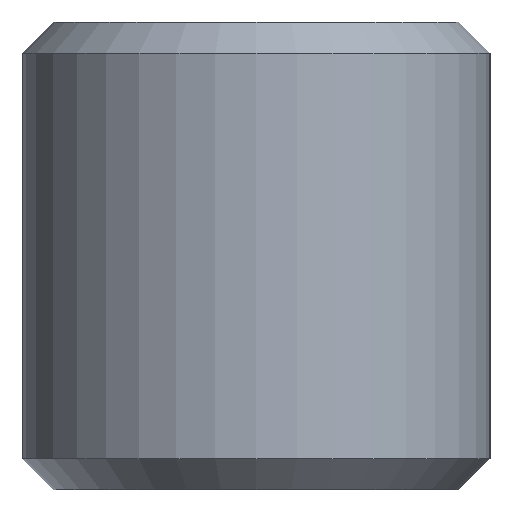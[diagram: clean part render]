
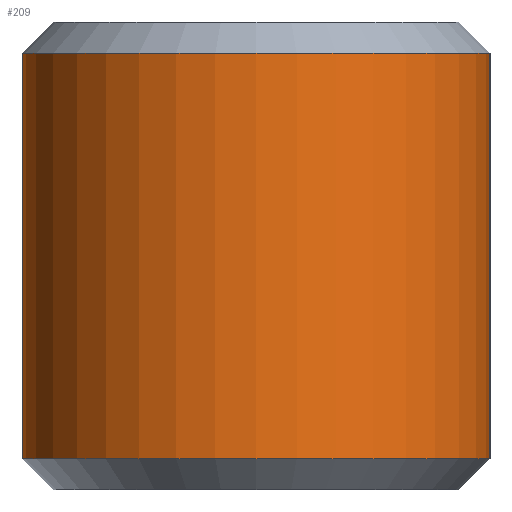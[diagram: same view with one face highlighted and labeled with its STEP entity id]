
A CAD part, left-side view. The second image highlights one B-rep face of the part: STEP entity #209.
In plain terms, the highlighted cylindrical face has radius 3 mm (diameter 6 mm), a partial arc.
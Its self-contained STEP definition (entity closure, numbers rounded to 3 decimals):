
#15=CYLINDRICAL_SURFACE('',#250,3.);
#20=CIRCLE('',#248,3.);
#21=CIRCLE('',#251,3.);
#33=FACE_OUTER_BOUND('',#47,.T.);
#47=EDGE_LOOP('',(#157,#158,#159,#160));
#65=LINE('',#357,#85);
#66=LINE('',#360,#86);
#85=VECTOR('',#292,10.);
#86=VECTOR('',#295,10.);
#99=VERTEX_POINT('',#335);
#103=VERTEX_POINT('',#347);
#105=VERTEX_POINT('',#356);
#106=VERTEX_POINT('',#358);
#122=EDGE_CURVE('',#99,#103,#20,.T.);
#125=EDGE_CURVE('',#105,#99,#65,.T.);
#126=EDGE_CURVE('',#106,#105,#21,.T.);
#127=EDGE_CURVE('',#103,#106,#66,.T.);
#157=ORIENTED_EDGE('',*,*,#122,.F.);
#158=ORIENTED_EDGE('',*,*,#125,.F.);
#159=ORIENTED_EDGE('',*,*,#126,.F.);
#160=ORIENTED_EDGE('',*,*,#127,.F.);
#209=ADVANCED_FACE('',(#33),#15,.T.);
#248=AXIS2_PLACEMENT_3D('',#351,#284,#285);
#250=AXIS2_PLACEMENT_3D('',#355,#290,#291);
#251=AXIS2_PLACEMENT_3D('',#359,#293,#294);
#284=DIRECTION('center_axis',(0.,0.,-1.));
#285=DIRECTION('ref_axis',(0.,-1.,0.));
#290=DIRECTION('center_axis',(0.,0.,-1.));
#291=DIRECTION('ref_axis',(0.,-1.,0.));
#292=DIRECTION('',(0.,0.,-1.));
#293=DIRECTION('center_axis',(0.,0.,1.));
#294=DIRECTION('ref_axis',(0.,-1.,0.));
#295=DIRECTION('',(0.,0.,1.));
#335=CARTESIAN_POINT('',(3.,-3.,-3.1));
#347=CARTESIAN_POINT('',(3.,3.,-3.1));
#351=CARTESIAN_POINT('Origin',(3.,0.,-3.1));
#355=CARTESIAN_POINT('Origin',(3.,0.,0.));
#356=CARTESIAN_POINT('',(3.,-3.,2.1));
#357=CARTESIAN_POINT('',(3.,-3.,0.));
#358=CARTESIAN_POINT('',(3.,3.,2.1));
#359=CARTESIAN_POINT('Origin',(3.,0.,2.1));
#360=CARTESIAN_POINT('',(3.,3.,0.));
